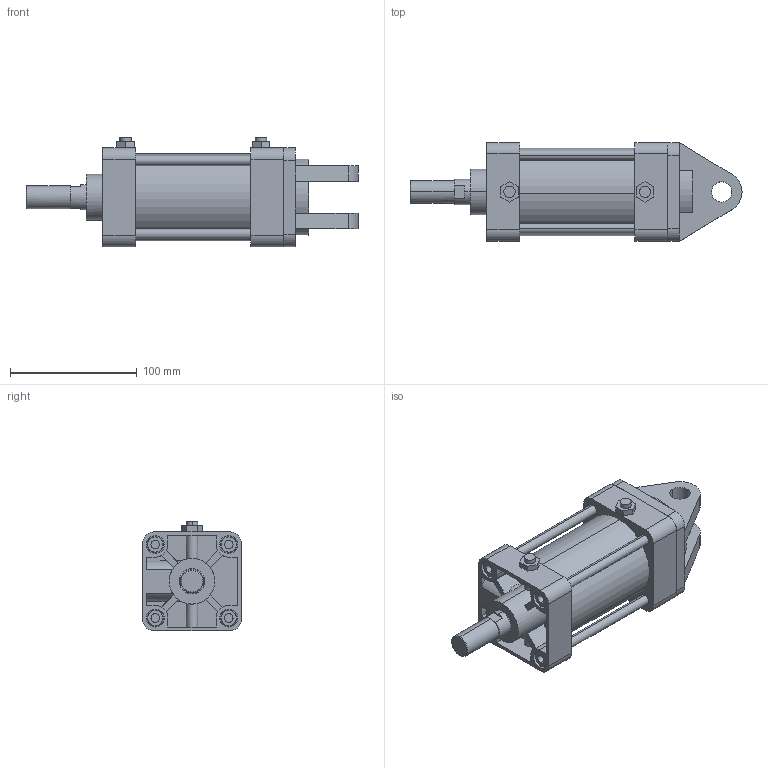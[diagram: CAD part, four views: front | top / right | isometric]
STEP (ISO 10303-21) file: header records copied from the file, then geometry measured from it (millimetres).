
FILE_DESCRIPTION (( 'STEP AP203' ), '1' );
FILE_NAME ('KG2-63-50-W.STEP', '2016-04-01T08:17:40', ( '' ), ( '' ), 'SwSTEP 2.0', 'SolidWorks 2014', '' );
FILE_SCHEMA (( 'CONFIG_CONTROL_DESIGN' ));
Length unit declared in the file: millimetre
Products named in the file (7): KG2-63-After; KG2-63-50-W; KGLH2-63-50; K-63-W
Assembly tree (16 placements, depth 2):
  KG2-63-50-W
    KG2-63-After
    KGLH2-63-50
    (unnamed)
    (unnamed)  x4
    (unnamed)  x8
    K-63-W
Bounding box: 262 x 78 x 86.3 mm (x, y, z)
Volume: 725479.5 mm3; surface area: 145206.9 mm2
Topology: 16 solids, 16 shells, 358 faces, 875 edges, 558 vertices
Faces by surface type: plane 157, cylinder 143, torus 32, cone 26
Entity records: 9343 total; most frequent: CARTESIAN_POINT 1633, DIRECTION 1477, ORIENTED_EDGE 1358, EDGE_CURVE 679, AXIS2_PLACEMENT_3D 543, VERTEX_POINT 444, VECTOR 391, LINE 391
